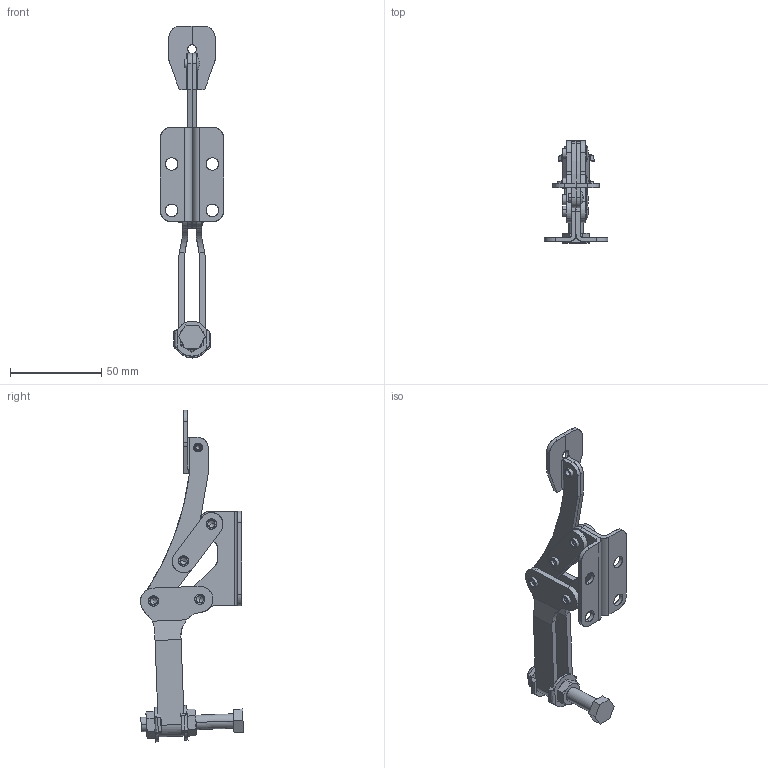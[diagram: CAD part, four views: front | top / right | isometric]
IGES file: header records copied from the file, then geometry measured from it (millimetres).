
Start section: SolidWorks IGES file using analytic representation for surfaces
Global section: file name: C:\lapeer-mfg\H-400\iges\H-401.IGS; native system: SolidWorks 2005 by SolidWorks Corporation; preprocessor: SolidWorks 2005 by SolidWorks Corporation; author: rtaylor; date: 050206.084233; units: inch
Bounding box: 34.9 x 56.44 x 182.21 mm (x, y, z)
Surface area: 31388.8 mm2 (no closed solid volume)
Topology: 0 solids, 0 shells, 370 faces, 5582 edges, 5572 vertices
Faces by surface type: revolution 193, bspline 177
